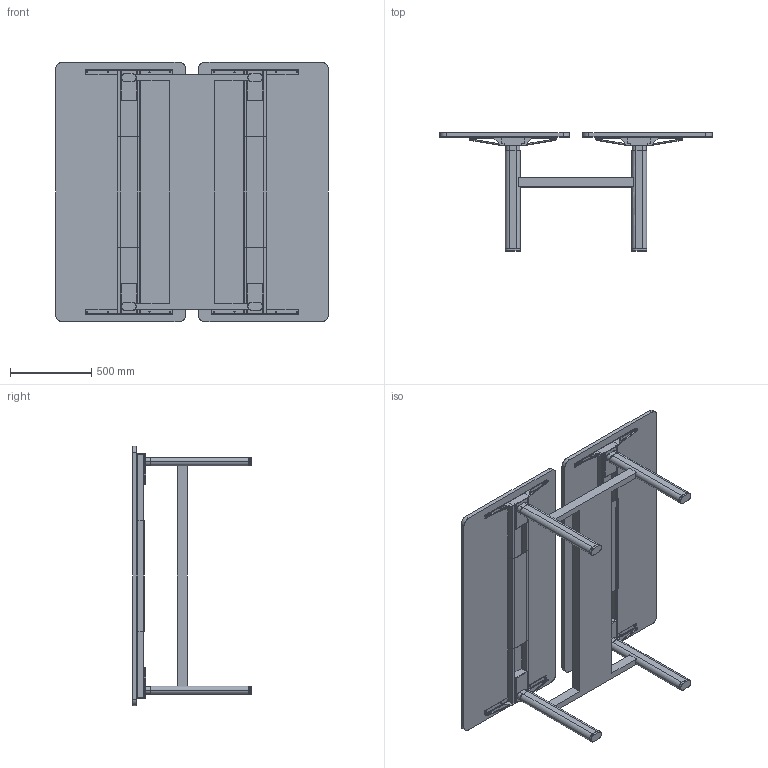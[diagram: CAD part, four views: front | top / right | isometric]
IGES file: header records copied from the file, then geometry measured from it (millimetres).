
Start section: SolidWorks IGES file using analytic representation for surfaces
Global section: file name: C:\Users\simone.cerana\OneDrive - Gruppo Tecno\Desktop\CHINA\DISEGNI DI SERIE\ASSIEMI LISTINO\AXIS LISTINO\AX1616ST.IGS; native system: SolidWorks 2024; preprocessor: SolidWorks 2024; author: simone.cerana; date: 260508.091751; units: millimetre
Bounding box: 1680 x 729.39 x 1600 mm (x, y, z)
Surface area: 8513447.1 mm2 (no closed solid volume)
Topology: 0 solids, 0 shells, 542 faces, 6352 edges, 6344 vertices
Faces by surface type: revolution 272, bspline 270
